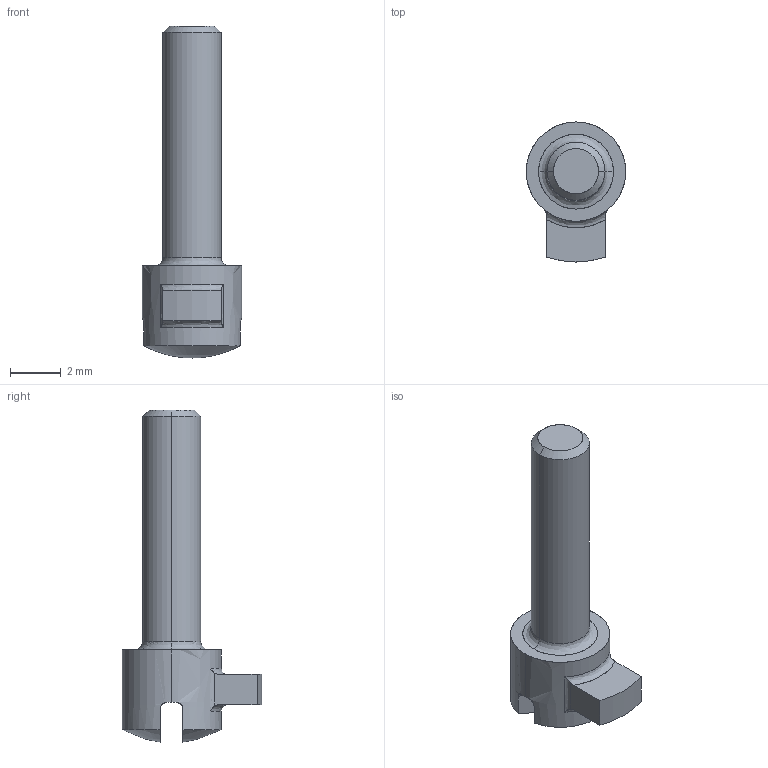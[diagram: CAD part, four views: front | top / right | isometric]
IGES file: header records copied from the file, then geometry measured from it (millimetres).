
Start section: SolidWorks IGES file using analytic representation for surfaces
Global section: file name: \\PSSILO\catalogs\CONTENTCENTRAL\Magazine Catch Lock\Cache\0497947B-1F51-4580-AE40-888BE1A81ACB.IGS; native system: SolidWorks 2009; preprocessor: SolidWorks 2009; author: partstream; date: 090716.111944; units: inch
Bounding box: 3.91 x 5.51 x 13.07 mm (x, y, z)
Surface area: 148.2 mm2 (no closed solid volume)
Topology: 0 solids, 0 shells, 26 faces, 304 edges, 304 vertices
Faces by surface type: revolution 13, bspline 13
